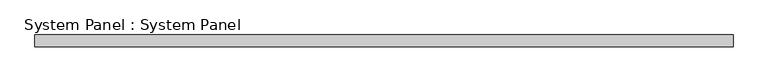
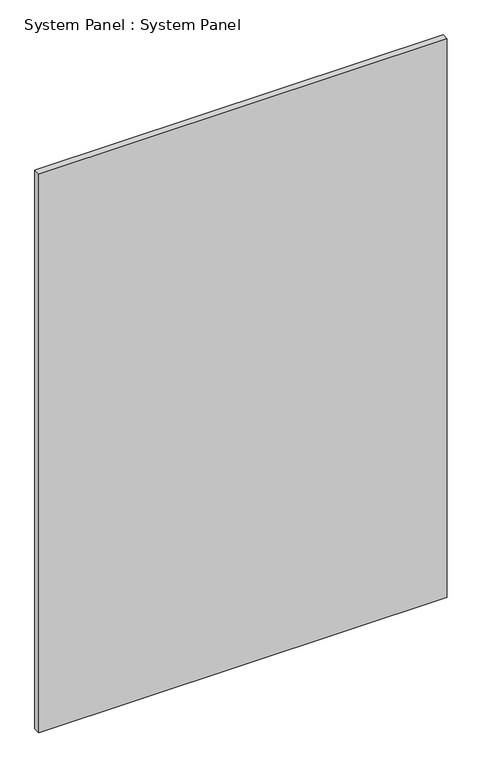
"""IFC4 building model written with IfcOpenShell, lengths in millimetres: plate geometry, System Panel : System Panel."""

from ifc_helpers import new_model, si_unit, origin, origin_with_axes, place, context, project, spatial, polyline, outline, extrude, source, transform, mapped, element, save


def system_panel_system_panel_37f665d0(model_context):
    return source(origin(), model_context, "Body", "SweptSolid", [
        extrude(outline(polyline([(740.0, 24.5), (-740.0, 24.5), (-740.0, 49.5), (740.0, 49.5), (740.0, 24.5)])), origin_with_axes(), (0.0, 0.0, 1.0), 2140.3111283),
    ])


if __name__ == "__main__":
    model = new_model("IFC4")
    model_context = context("Model", 3, world=origin())
    ifc_project = project(units=[si_unit("LENGTHUNIT", "METRE", prefix="MILLI")], contexts=[model_context])
    site = spatial("IfcSite", under=ifc_project)
    building = spatial("IfcBuilding", under=site)
    placement = place(None, origin())
    system_panel_system_panel_shape = system_panel_system_panel_37f665d0(model_context)
    element("IfcPlate", 1, ObjectType="System Panel : System Panel", at=placement, inside=building, context=model_context, shape_type="MappedRepresentation", body=[
        mapped(system_panel_system_panel_shape, transform((0.0, 0.0, 0.0), x_axis=(1.0, 0.0, 0.0), y_axis=(0.0, 1.0, 0.0), z_axis=(0.0, 0.0, 1.0))),
    ])
    save(model, "model.ifc")
